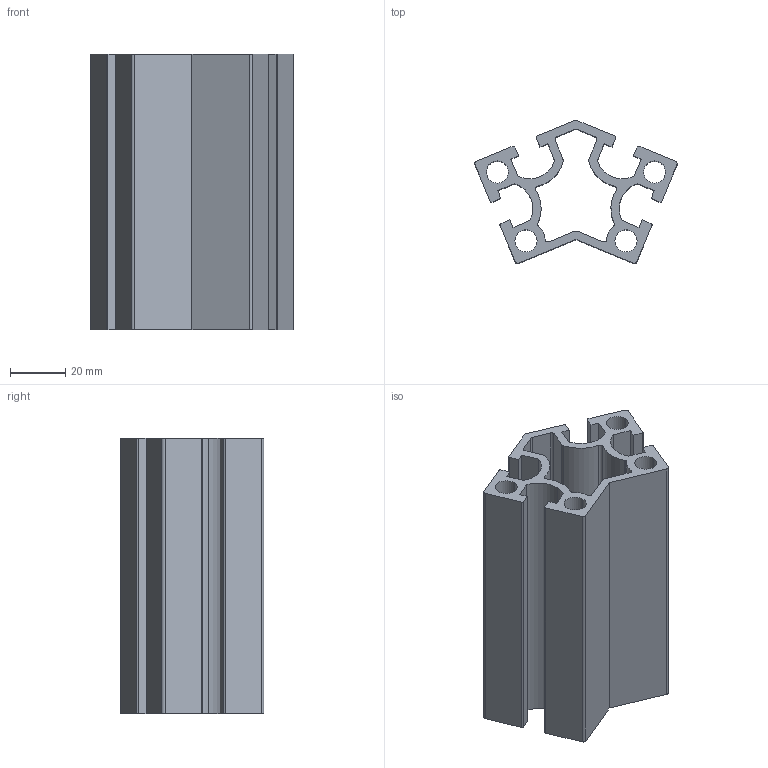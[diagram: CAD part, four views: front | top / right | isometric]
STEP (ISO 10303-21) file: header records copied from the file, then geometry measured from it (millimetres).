
FILE_DESCRIPTION (( 'STEP AP203' ), '1' );
FILE_NAME ('WS4040135-8.STEP', '2024-02-19T05:39:22', ( '' ), ( '' ), 'SwSTEP 2.0', 'SolidWorks 2022', '' );
FILE_SCHEMA (( 'CONFIG_CONTROL_DESIGN' ));
Length unit declared in the file: millimetre
Products named in the file (1): WS4040135-8
Bounding box: 73.3 x 51.95 x 100 mm (x, y, z)
Volume: 93526.3 mm3; surface area: 59281.4 mm2
Topology: 1 solids, 1 shells, 93 faces, 273 edges, 182 vertices
Faces by surface type: cylinder 51, plane 42
Entity records: 3226 total; most frequent: DIRECTION 563, CARTESIAN_POINT 549, ORIENTED_EDGE 546, EDGE_CURVE 273, AXIS2_PLACEMENT_3D 196, VERTEX_POINT 182, VECTOR 171, LINE 171
